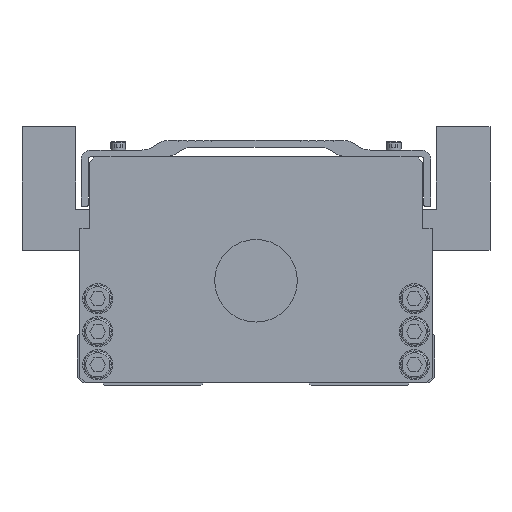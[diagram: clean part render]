
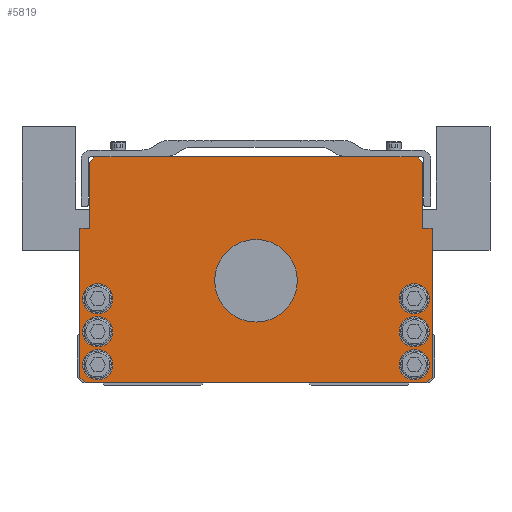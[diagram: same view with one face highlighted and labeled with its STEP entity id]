
A CAD part, front view. The second image highlights one B-rep face of the part: STEP entity #5819.
In plain terms, the highlighted planar face has unit normal (0, -1, 0).
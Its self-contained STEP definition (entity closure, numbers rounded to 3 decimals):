
#5291=VERTEX_POINT('',#15119);
#5479=EDGE_CURVE('',#13739,#9059,#15330,.T.);
#5771=EDGE_CURVE('',#12205,#11059,#15659,.T.);
#5773=VERTEX_POINT('',#15661);
#5819=ADVANCED_FACE('',(#15711,#15712,#15713,#15714,#15715,#15716,#15717,#15718),#15719,.T.);
#6017=VERTEX_POINT('',#15942);
#6087=EDGE_CURVE('',#6641,#5773,#16023,.T.);
#6111=EDGE_CURVE('',#13415,#14381,#16052,.T.);
#6385=EDGE_CURVE('',#9059,#14021,#16353,.T.);
#6497=VERTEX_POINT('',#16473);
#6641=VERTEX_POINT('',#16628);
#7281=EDGE_CURVE('',#11063,#11229,#17359,.T.);
#7389=VERTEX_POINT('',#17480);
#7439=EDGE_CURVE('',#12719,#7871,#17533,.T.);
#7659=VERTEX_POINT('',#17772);
#7871=VERTEX_POINT('',#18005);
#8199=VERTEX_POINT('',#18380);
#8201=EDGE_CURVE('',#9263,#9877,#18382,.T.);
#8315=EDGE_CURVE('',#12343,#6017,#18508,.T.);
#8419=VERTEX_POINT('',#18624);
#8529=EDGE_CURVE('',#10881,#11063,#18749,.T.);
#8929=EDGE_CURVE('',#13747,#5291,#19189,.T.);
#9059=VERTEX_POINT('',#19332);
#9141=EDGE_CURVE('',#11229,#7659,#19418,.T.);
#9263=VERTEX_POINT('',#19554);
#9363=EDGE_CURVE('',#7871,#12719,#19665,.T.);
#9577=EDGE_CURVE('',#14021,#6641,#19904,.T.);
#9635=EDGE_CURVE('',#8419,#11045,#19965,.T.);
#9877=VERTEX_POINT('',#20226);
#10033=EDGE_CURVE('',#6497,#10059,#20400,.T.);
#10059=VERTEX_POINT('',#20432);
#10327=EDGE_CURVE('',#6017,#12343,#20728,.T.);
#10543=EDGE_CURVE('',#5773,#8419,#20956,.T.);
#10881=VERTEX_POINT('',#21335);
#11045=VERTEX_POINT('',#21519);
#11059=VERTEX_POINT('',#21535);
#11063=VERTEX_POINT('',#21539);
#11229=VERTEX_POINT('',#21729);
#11389=EDGE_CURVE('',#11627,#10881,#21906,.T.);
#11439=EDGE_CURVE('',#10059,#6497,#21960,.T.);
#11503=EDGE_CURVE('',#11045,#7389,#22028,.T.);
#11627=VERTEX_POINT('',#22168);
#11721=EDGE_CURVE('',#14381,#13415,#22275,.T.);
#12025=EDGE_CURVE('',#8199,#13739,#22604,.T.);
#12205=VERTEX_POINT('',#22810);
#12343=VERTEX_POINT('',#22960);
#12719=VERTEX_POINT('',#23381);
#12755=EDGE_CURVE('',#9877,#9263,#23420,.T.);
#12811=EDGE_CURVE('',#11059,#12205,#23479,.T.);
#13049=EDGE_CURVE('',#5291,#13747,#23744,.T.);
#13381=EDGE_CURVE('',#7389,#11627,#24121,.T.);
#13415=VERTEX_POINT('',#24158);
#13739=VERTEX_POINT('',#24518);
#13747=VERTEX_POINT('',#24527);
#14021=VERTEX_POINT('',#24845);
#14153=EDGE_CURVE('',#7659,#8199,#24989,.T.);
#14381=VERTEX_POINT('',#25240);
#15119=CARTESIAN_POINT('',(-63.0,0.0,31.5));
#15330=LINE('',#26437,#26438);
#15659=CIRCLE('',#26870,5.5);
#15661=CARTESIAN_POINT('',(-64.0,0.0,3.0));
#15711=FACE_BOUND('',#26940,.T.);
#15712=FACE_BOUND('',#26941,.T.);
#15713=FACE_BOUND('',#26942,.T.);
#15714=FACE_BOUND('',#26943,.T.);
#15715=FACE_BOUND('',#26944,.T.);
#15716=FACE_BOUND('',#26945,.T.);
#15717=FACE_BOUND('',#26946,.T.);
#15718=FACE_OUTER_BOUND('',#26947,.T.);
#15719=PLANE('',#26948);
#15942=CARTESIAN_POINT('',(-52.0,0.0,7.5));
#16023=LINE('',#27381,#27382);
#16052=CIRCLE('',#27420,5.5);
#16353=LINE('',#27829,#27830);
#16473=CARTESIAN_POINT('',(15.0,0.0,38.0));
#16628=CARTESIAN_POINT('',(-62.0,0.0,1.0));
#17359=LINE('',#29211,#29212);
#17480=CARTESIAN_POINT('',(-60.5,0.0,81.0));
#17533=CIRCLE('',#29440,5.5);
#17772=CARTESIAN_POINT('',(60.5,0.0,81.0));
#18005=CARTESIAN_POINT('',(63.0,0.0,19.5));
#18380=CARTESIAN_POINT('',(60.5,0.0,57.0));
#18382=CIRCLE('',#30631,5.5);
#18508=CIRCLE('',#30828,5.5);
#18624=CARTESIAN_POINT('',(-64.0,0.0,57.0));
#18749=LINE('',#31167,#31168);
#19189=CIRCLE('',#31794,5.5);
#19332=CARTESIAN_POINT('',(64.0,0.0,3.0));
#19418=LINE('',#32112,#32113);
#19554=CARTESIAN_POINT('',(63.0,0.0,7.5));
#19665=CIRCLE('',#32437,5.5);
#19904=LINE('',#32783,#32784);
#19965=LINE('',#32871,#32872);
#20226=CARTESIAN_POINT('',(52.0,0.0,7.5));
#20400=CIRCLE('',#33474,15.0);
#20432=CARTESIAN_POINT('',(-15.0,0.0,38.0));
#20728=CIRCLE('',#33925,5.5);
#20956=LINE('',#34240,#34241);
#21335=CARTESIAN_POINT('',(-33.25,0.0,83.0));
#21519=CARTESIAN_POINT('',(-60.5,0.0,57.0));
#21535=CARTESIAN_POINT('',(63.0,0.0,31.5));
#21539=CARTESIAN_POINT('',(33.25,0.0,83.0));
#21729=CARTESIAN_POINT('',(58.5,0.0,83.0));
#21906=LINE('',#35528,#35529);
#21960=CIRCLE('',#35612,15.0);
#22028=LINE('',#35715,#35716);
#22168=CARTESIAN_POINT('',(-58.5,0.0,83.0));
#22275=CIRCLE('',#36059,5.5);
#22604=LINE('',#36514,#36515);
#22810=CARTESIAN_POINT('',(52.0,0.0,31.5));
#22960=CARTESIAN_POINT('',(-63.0,0.0,7.5));
#23381=CARTESIAN_POINT('',(52.0,0.0,19.5));
#23420=CIRCLE('',#37645,5.5);
#23479=CIRCLE('',#37732,5.5);
#23744=CIRCLE('',#38076,5.5);
#24121=LINE('',#38585,#38586);
#24158=CARTESIAN_POINT('',(-52.0,0.0,19.5));
#24518=CARTESIAN_POINT('',(64.0,0.0,57.0));
#24527=CARTESIAN_POINT('',(-52.0,0.0,31.5));
#24845=CARTESIAN_POINT('',(62.0,0.0,1.0));
#24989=LINE('',#39755,#39756);
#25240=CARTESIAN_POINT('',(-63.0,0.0,19.5));
#26437=CARTESIAN_POINT('',(64.0,0.0,3.0));
#26438=VECTOR('',#41266,1.0);
#26870=AXIS2_PLACEMENT_3D('',#41665,#41666,#41667);
#26940=EDGE_LOOP('',(#41723,#41724));
#26941=EDGE_LOOP('',(#41725,#41726));
#26942=EDGE_LOOP('',(#41727,#41728));
#26943=EDGE_LOOP('',(#41729,#41730));
#26944=EDGE_LOOP('',(#41731,#41732));
#26945=EDGE_LOOP('',(#41733,#41734));
#26946=EDGE_LOOP('',(#41735,#41736));
#26947=EDGE_LOOP('',(#41737,#41738,#41739,#41740,#41741,#41742,#41743,#41744,#41745,#41746,#41747,#41748,#41749,#41750));
#26948=AXIS2_PLACEMENT_3D('',#41751,#41752,#41753);
#27381=CARTESIAN_POINT('',(-64.0,0.0,3.0));
#27382=VECTOR('',#42192,1.);
#27420=AXIS2_PLACEMENT_3D('',#42230,#42231,#42232);
#27829=CARTESIAN_POINT('',(62.0,0.0,1.0));
#27830=VECTOR('',#42628,1.);
#29211=CARTESIAN_POINT('',(58.5,0.0,83.0));
#29212=VECTOR('',#43755,1.0);
#29440=AXIS2_PLACEMENT_3D('',#43936,#43937,#43938);
#30631=AXIS2_PLACEMENT_3D('',#44930,#44931,#44932);
#30828=AXIS2_PLACEMENT_3D('',#45072,#45073,#45074);
#31167=CARTESIAN_POINT('',(58.5,0.0,83.0));
#31168=VECTOR('',#45380,1.0);
#31794=AXIS2_PLACEMENT_3D('',#45927,#45928,#45929);
#32112=CARTESIAN_POINT('',(60.5,0.0,81.0));
#32113=VECTOR('',#46146,1.);
#32437=AXIS2_PLACEMENT_3D('',#46413,#46414,#46415);
#32783=CARTESIAN_POINT('',(-62.0,0.0,1.0));
#32784=VECTOR('',#46688,1.0);
#32871=CARTESIAN_POINT('',(-60.5,0.0,57.0));
#32872=VECTOR('',#46739,1.0);
#33474=AXIS2_PLACEMENT_3D('',#47158,#47159,#47160);
#33925=AXIS2_PLACEMENT_3D('',#47554,#47555,#47556);
#34240=CARTESIAN_POINT('',(-64.0,0.0,57.0));
#34241=VECTOR('',#47756,1.0);
#35528=CARTESIAN_POINT('',(58.5,0.0,83.0));
#35529=VECTOR('',#48881,1.0);
#35612=AXIS2_PLACEMENT_3D('',#48940,#48941,#48942);
#35715=CARTESIAN_POINT('',(-60.5,0.0,81.0));
#35716=VECTOR('',#48989,1.0);
#36059=AXIS2_PLACEMENT_3D('',#49302,#49303,#49304);
#36514=CARTESIAN_POINT('',(64.0,0.0,57.0));
#36515=VECTOR('',#49640,1.0);
#37645=AXIS2_PLACEMENT_3D('',#50530,#50531,#50532);
#37732=AXIS2_PLACEMENT_3D('',#50585,#50586,#50587);
#38076=AXIS2_PLACEMENT_3D('',#50871,#50872,#50873);
#38585=CARTESIAN_POINT('',(-58.5,0.0,83.0));
#38586=VECTOR('',#51385,1.);
#39755=CARTESIAN_POINT('',(60.5,0.0,57.0));
#39756=VECTOR('',#52474,1.0);
#41266=DIRECTION('',(-0.0,0.0,-1.0));
#41665=CARTESIAN_POINT('',(57.5,0.0,31.5));
#41666=DIRECTION('',(-0.0,1.0,0.0));
#41667=DIRECTION('',(1.0,0.0,0.0));
#41723=ORIENTED_EDGE('',*,*,#10033,.T.);
#41724=ORIENTED_EDGE('',*,*,#11439,.T.);
#41725=ORIENTED_EDGE('',*,*,#12811,.T.);
#41726=ORIENTED_EDGE('',*,*,#5771,.T.);
#41727=ORIENTED_EDGE('',*,*,#9363,.T.);
#41728=ORIENTED_EDGE('',*,*,#7439,.T.);
#41729=ORIENTED_EDGE('',*,*,#8201,.T.);
#41730=ORIENTED_EDGE('',*,*,#12755,.T.);
#41731=ORIENTED_EDGE('',*,*,#8929,.T.);
#41732=ORIENTED_EDGE('',*,*,#13049,.T.);
#41733=ORIENTED_EDGE('',*,*,#6111,.T.);
#41734=ORIENTED_EDGE('',*,*,#11721,.T.);
#41735=ORIENTED_EDGE('',*,*,#10327,.T.);
#41736=ORIENTED_EDGE('',*,*,#8315,.T.);
#41737=ORIENTED_EDGE('',*,*,#6087,.F.);
#41738=ORIENTED_EDGE('',*,*,#9577,.F.);
#41739=ORIENTED_EDGE('',*,*,#6385,.F.);
#41740=ORIENTED_EDGE('',*,*,#5479,.F.);
#41741=ORIENTED_EDGE('',*,*,#12025,.F.);
#41742=ORIENTED_EDGE('',*,*,#14153,.F.);
#41743=ORIENTED_EDGE('',*,*,#9141,.F.);
#41744=ORIENTED_EDGE('',*,*,#7281,.F.);
#41745=ORIENTED_EDGE('',*,*,#8529,.F.);
#41746=ORIENTED_EDGE('',*,*,#11389,.F.);
#41747=ORIENTED_EDGE('',*,*,#13381,.F.);
#41748=ORIENTED_EDGE('',*,*,#11503,.F.);
#41749=ORIENTED_EDGE('',*,*,#9635,.F.);
#41750=ORIENTED_EDGE('',*,*,#10543,.F.);
#41751=CARTESIAN_POINT('',(0.,0.0,41.562));
#41752=DIRECTION('',(0.0,-1.0,0.0));
#41753=DIRECTION('',(1.0,0.0,0.0));
#42192=DIRECTION('',(-0.707,0.0,0.707));
#42230=CARTESIAN_POINT('',(-57.5,0.0,19.5));
#42231=DIRECTION('',(-0.0,1.0,0.0));
#42232=DIRECTION('',(1.0,0.0,0.0));
#42628=DIRECTION('',(-0.707,0.0,-0.707));
#43755=DIRECTION('',(1.0,0.0,0.0));
#43936=CARTESIAN_POINT('',(57.5,0.0,19.5));
#43937=DIRECTION('',(-0.0,1.0,0.0));
#43938=DIRECTION('',(1.0,0.0,0.0));
#44930=CARTESIAN_POINT('',(57.5,0.0,7.5));
#44931=DIRECTION('',(-0.0,1.0,0.0));
#44932=DIRECTION('',(1.0,0.0,0.0));
#45072=CARTESIAN_POINT('',(-57.5,0.0,7.5));
#45073=DIRECTION('',(-0.0,1.0,0.0));
#45074=DIRECTION('',(1.0,0.0,0.0));
#45380=DIRECTION('',(1.0,0.0,0.0));
#45927=CARTESIAN_POINT('',(-57.5,0.0,31.5));
#45928=DIRECTION('',(-0.0,1.0,0.0));
#45929=DIRECTION('',(1.0,0.0,0.0));
#46146=DIRECTION('',(0.707,0.0,-0.707));
#46413=CARTESIAN_POINT('',(57.5,0.0,19.5));
#46414=DIRECTION('',(-0.0,1.0,0.0));
#46415=DIRECTION('',(1.0,0.0,0.0));
#46688=DIRECTION('',(-1.0,0.0,-0.0));
#46739=DIRECTION('',(1.0,0.0,0.0));
#47158=CARTESIAN_POINT('',(0.0,0.0,38.0));
#47159=DIRECTION('',(-0.0,1.0,0.0));
#47160=DIRECTION('',(1.0,0.0,0.0));
#47554=CARTESIAN_POINT('',(-57.5,0.0,7.5));
#47555=DIRECTION('',(-0.0,1.0,0.0));
#47556=DIRECTION('',(1.0,0.0,0.0));
#47756=DIRECTION('',(0.0,0.0,1.0));
#48881=DIRECTION('',(1.0,0.0,0.0));
#48940=CARTESIAN_POINT('',(0.0,0.0,38.0));
#48941=DIRECTION('',(-0.0,1.0,0.0));
#48942=DIRECTION('',(1.0,0.0,0.0));
#48989=DIRECTION('',(0.0,0.0,1.0));
#49302=CARTESIAN_POINT('',(-57.5,0.0,19.5));
#49303=DIRECTION('',(-0.0,1.0,0.0));
#49304=DIRECTION('',(1.0,0.0,0.0));
#49640=DIRECTION('',(1.0,0.0,0.0));
#50530=CARTESIAN_POINT('',(57.5,0.0,7.5));
#50531=DIRECTION('',(-0.0,1.0,0.0));
#50532=DIRECTION('',(1.0,0.0,0.0));
#50585=CARTESIAN_POINT('',(57.5,0.0,31.5));
#50586=DIRECTION('',(-0.0,1.0,0.0));
#50587=DIRECTION('',(1.0,0.0,0.0));
#50871=CARTESIAN_POINT('',(-57.5,0.0,31.5));
#50872=DIRECTION('',(-0.0,1.0,0.0));
#50873=DIRECTION('',(1.0,0.0,0.0));
#51385=DIRECTION('',(0.707,0.0,0.707));
#52474=DIRECTION('',(-0.0,0.0,-1.0));
